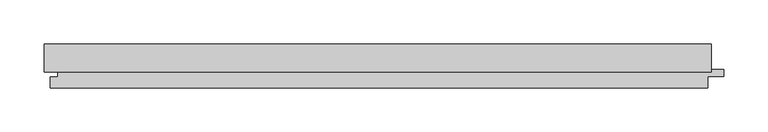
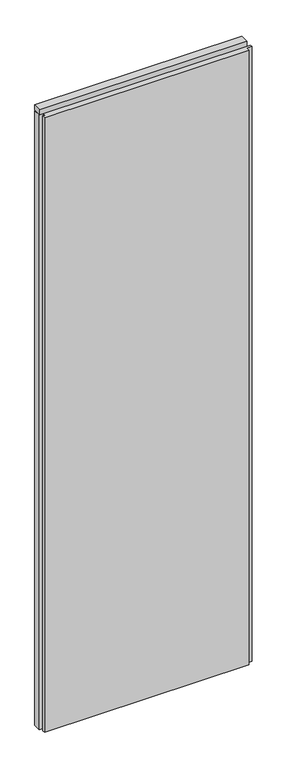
"""IFC4 building model written with IfcOpenShell, lengths in millimetres: plate geometry, Trimo_Qbiss Screen_Normal Panel-VERTICAL : HR - FB-F."""

from ifc_helpers import new_model, si_unit, frame, origin, place, context, project, spatial, polyline, outline, extrude, source, transform, mapped, element, save


def plate_0c744021(model_context):
    return source(origin(), model_context, "Body", "SweptSolid", [
        extrude(outline(polyline([(-425.0, 93.9), (-425.0, 126.0), (333.0, 126.0), (333.0, 93.9), (-425.0, 93.9)])), frame((0.0, 0.0, 2390.5), z_axis=(0.0, 0.0, 1.0), x_axis=(1.0, 0.0, 0.0)), (0.0, 0.0, 1.0), 19.0),
        extrude(outline(polyline([(329.0, 97.0), (347.5, 97.0), (347.5, 89.0), (329.0, 89.0), (329.0, 76.0), (-418.0, 76.0), (-418.0, 88.0), (-409.5, 88.0), (-409.5, 98.0), (-425.0, 98.0), (-425.0, 126.0), (329.0, 126.0), (329.0, 97.0)])), frame((0.0, 0.0, 12.5), z_axis=(0.0, 0.0, 1.0), x_axis=(1.0, 0.0, 0.0)), (0.0, 0.0, 1.0), 2375.0),
    ])


if __name__ == "__main__":
    model = new_model("IFC4")
    model_context = context("Model", 3, world=origin())
    ifc_project = project(units=[si_unit("LENGTHUNIT", "METRE", prefix="MILLI")], contexts=[model_context])
    site = spatial("IfcSite", under=ifc_project)
    building = spatial("IfcBuilding", under=site)
    placement = place(None, origin())
    plate_shape = plate_0c744021(model_context)
    element("IfcPlate", 1, ObjectType="Trimo_Qbiss Screen_Normal Panel-VERTICAL : HR - FB-F", at=placement, inside=building, context=model_context, shape_type="MappedRepresentation", body=[
        mapped(plate_shape, transform((0.0, 0.0, 0.0), x_axis=(1.0, 0.0, 0.0), y_axis=(0.0, 1.0, 0.0), z_axis=(0.0, 0.0, 1.0))),
    ])
    save(model, "model.ifc")
